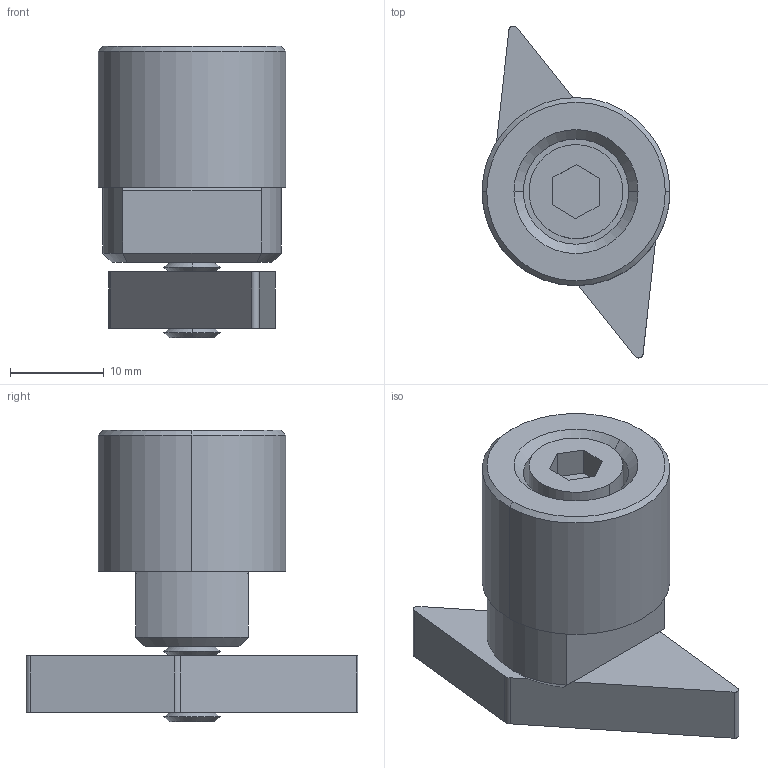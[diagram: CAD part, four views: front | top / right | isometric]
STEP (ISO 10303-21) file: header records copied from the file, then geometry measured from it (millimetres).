
FILE_DESCRIPTION (( 'STEP AP203' ), '1' );
FILE_NAME ('30200.W0112.step', '2017-06-30T11:02:34', ( 'User' ), ( '' ), 'SwSTEP 2.0', 'SolidWorks 2009', '' );
FILE_SCHEMA (( 'CONFIG_CONTROL_DESIGN' ));
Length unit declared in the file: millimetre
Products named in the file (4): Part1_30200.W0112; 30200.W0112; screw_M6x25; Wedge_30200.W0112
Assembly tree (3 placements, depth 2):
  30200.W0112
    Part1_30200.W0112
    screw_M6x25
    Wedge_30200.W0112
Bounding box: 20 x 35.32 x 31 mm (x, y, z)
Volume: 7844.4 mm3; surface area: 4579 mm2
Topology: 3 solids, 3 shells, 104 faces, 225 edges, 131 vertices
Faces by surface type: cone 51, plane 34, cylinder 19
Entity records: 3208 total; most frequent: DIRECTION 530, CARTESIAN_POINT 478, ORIENTED_EDGE 450, EDGE_CURVE 225, AXIS2_PLACEMENT_3D 199, VECTOR 132, LINE 132, VERTEX_POINT 131
